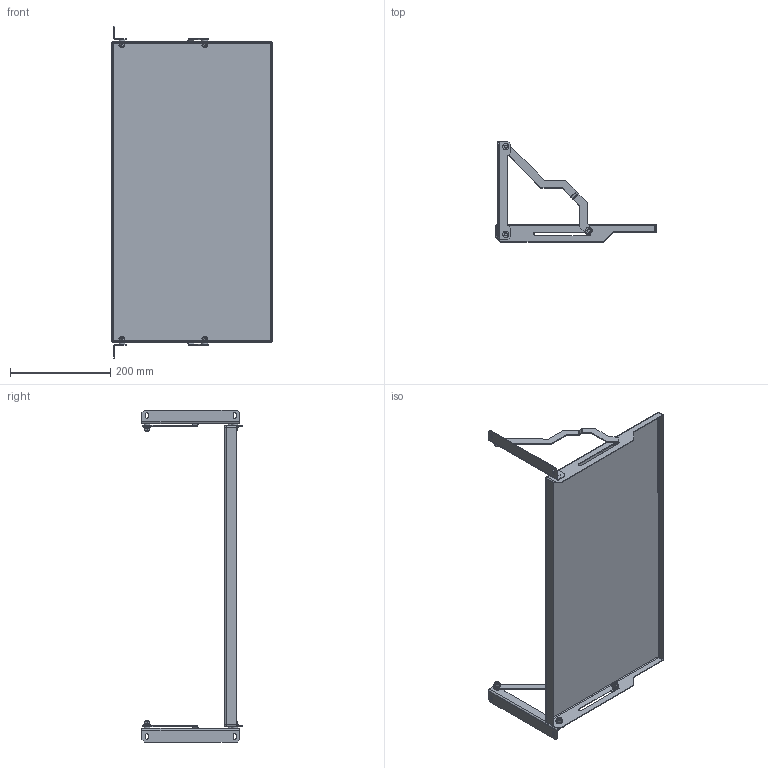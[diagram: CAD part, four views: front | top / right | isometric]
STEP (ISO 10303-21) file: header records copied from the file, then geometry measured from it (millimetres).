
FILE_DESCRIPTION (( 'STEP AP203' ), '1' );
FILE_NAME ('SH 80 D ÑÁ Ïîäñòàâêà v1.STEP', '2017-11-21T12:51:50', ( 'user' ), ( '' ), 'SwSTEP 2.0', 'SolidWorks 2012', '' );
FILE_SCHEMA (( 'CONFIG_CONTROL_DESIGN' ));
Length unit declared in the file: millimetre
Products named in the file (1): SH 80 D ÑÁ Ïîäñòàâêà v1
Bounding box: 320.01 x 200.01 x 662 mm (x, y, z)
Volume: 379013 mm3; surface area: 518644.2 mm2
Topology: 7 solids, 7 shells, 390 faces, 895 edges, 549 vertices
Faces by surface type: plane 212, cylinder 80, cone 48, bspline 36, sphere 8, torus 6
Full cylindrical faces by diameter (mm): 6 x6, 6.2 x6, 6.4 x12, 6.6 x2, 7 x2, 12.5 x12
Entity records: 11493 total; most frequent: CARTESIAN_POINT 3405, ORIENTED_EDGE 1600, DIRECTION 1544, EDGE_CURVE 800, AXIS2_PLACEMENT_3D 571, VERTEX_POINT 516, EDGE_LOOP 510, FACE_OUTER_BOUND 436
